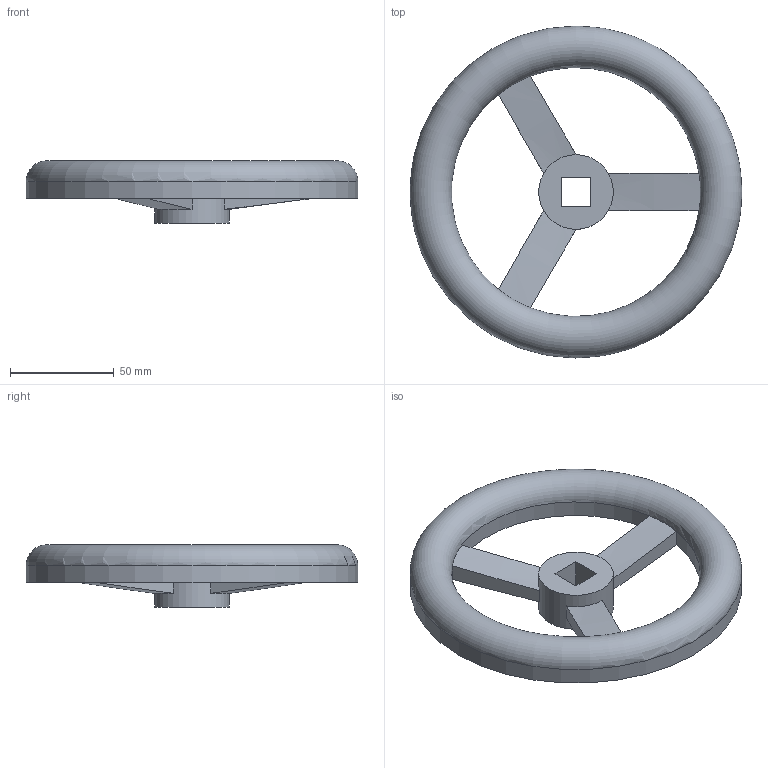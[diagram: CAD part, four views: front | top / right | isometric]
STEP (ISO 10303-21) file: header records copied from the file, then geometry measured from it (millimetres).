
FILE_DESCRIPTION( ( 'STEP AP203' ), '1' );
FILE_NAME( 'p:/temp/worker_143/temp/exporttempdir_1960_394_a60b0/format_0/5007608 7800 DN50 (400).stp', '2021-01-13T08:47:34', ( 'License CC BY-ND 4.0' ), ( 'CADENAS' ), ' ', 'PARTsolutions', ' ' );
FILE_SCHEMA( ( 'CONFIG_CONTROL_DESIGN' ) );
Length unit declared in the file: millimetre
Products named in the file (1): _5007608 7800 DN50 (400)
Bounding box: 160 x 160 x 30 mm (x, y, z)
Volume: 99234.5 mm3; surface area: 50688.3 mm2
Topology: 1 solids, 1 shells, 29 faces, 72 edges, 43 vertices
Faces by surface type: plane 14, cylinder 7, cone 6, torus 2
Full cylindrical faces by diameter (mm): 36 x1, 127.2 x1, 152.8 x1, 160 x1
Entity records: 910 total; most frequent: CARTESIAN_POINT 216, DIRECTION 136, ORIENTED_EDGE 124, EDGE_CURVE 62, AXIS2_PLACEMENT_3D 56, EDGE_LOOP 42, VERTEX_POINT 40, FACE_OUTER_BOUND 35
